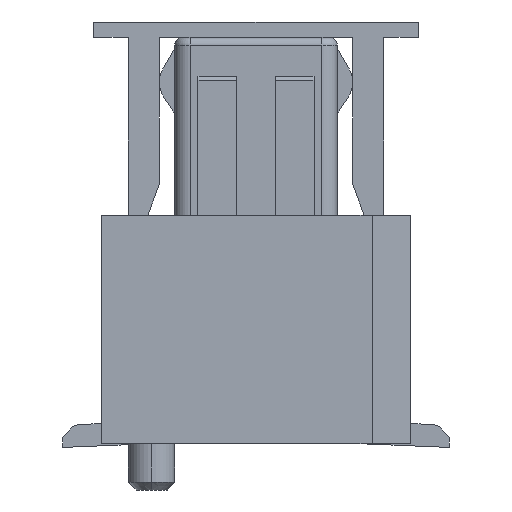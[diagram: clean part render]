
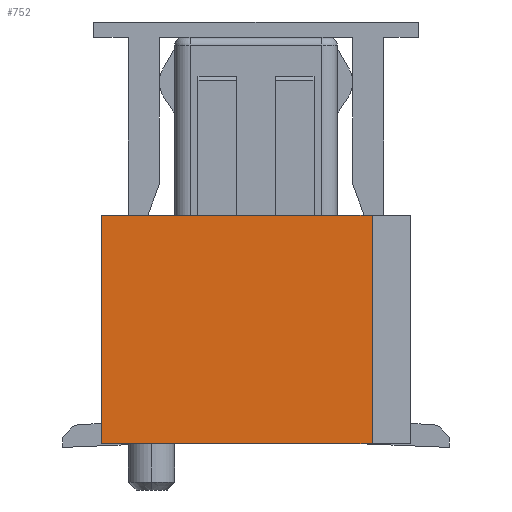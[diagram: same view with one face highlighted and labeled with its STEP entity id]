
A CAD part, left-side view. The second image highlights one B-rep face of the part: STEP entity #752.
In plain terms, the highlighted planar face has unit normal (-1, 0, 0).
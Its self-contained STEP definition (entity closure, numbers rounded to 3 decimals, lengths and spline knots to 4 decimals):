
#713=CARTESIAN_POINT('Axis2P3D Location',(-8.95,0.,0.)) ;
#718=CARTESIAN_POINT('Line Origine',(-8.95,-1.5,1.475)) ;
#722=CARTESIAN_POINT('Vertex',(-8.95,-1.5,2.95)) ;
#724=CARTESIAN_POINT('Vertex',(-8.95,-1.5,0.)) ;
#727=CARTESIAN_POINT('Line Origine',(-8.95,0.25,2.95)) ;
#731=CARTESIAN_POINT('Vertex',(-8.95,2.,2.95)) ;
#734=CARTESIAN_POINT('Line Origine',(-8.95,2.,1.475)) ;
#738=CARTESIAN_POINT('Vertex',(-8.95,2.,0.)) ;
#741=CARTESIAN_POINT('Line Origine',(-8.95,0.25,0.)) ;
#714=DIRECTION('Axis2P3D Direction',(1.,0.,0.)) ;
#715=DIRECTION('Axis2P3D XDirection',(0.,1.,0.)) ;
#719=DIRECTION('Vector Direction',(0.,0.,1.)) ;
#728=DIRECTION('Vector Direction',(0.,1.,0.)) ;
#735=DIRECTION('Vector Direction',(0.,0.,1.)) ;
#742=DIRECTION('Vector Direction',(0.,-1.,0.)) ;
#716=AXIS2_PLACEMENT_3D('Plane Axis2P3D',#713,#714,#715) ;
#747=ORIENTED_EDGE('',*,*,#726,.F.) ;
#748=ORIENTED_EDGE('',*,*,#733,.F.) ;
#749=ORIENTED_EDGE('',*,*,#740,.F.) ;
#750=ORIENTED_EDGE('',*,*,#745,.F.) ;
#720=VECTOR('Line Direction',#719,1.) ;
#729=VECTOR('Line Direction',#728,1.) ;
#736=VECTOR('Line Direction',#735,1.) ;
#743=VECTOR('Line Direction',#742,1.) ;
#752=ADVANCED_FACE('\X2\96F64EF651E04F554F53\X0\',(#751),#717,.F.) ;
#726=EDGE_CURVE('',#723,#725,#721,.F.) ;
#733=EDGE_CURVE('',#732,#723,#730,.F.) ;
#740=EDGE_CURVE('',#739,#732,#737,.T.) ;
#745=EDGE_CURVE('',#725,#739,#744,.F.) ;
#746=EDGE_LOOP('',(#747,#748,#749,#750)) ;
#751=FACE_OUTER_BOUND('',#746,.T.) ;
#721=LINE('Line',#718,#720) ;
#730=LINE('Line',#727,#729) ;
#737=LINE('Line',#734,#736) ;
#744=LINE('Line',#741,#743) ;
#717=PLANE('Plane',#716) ;
#723=VERTEX_POINT('',#722) ;
#725=VERTEX_POINT('',#724) ;
#732=VERTEX_POINT('',#731) ;
#739=VERTEX_POINT('',#738) ;
